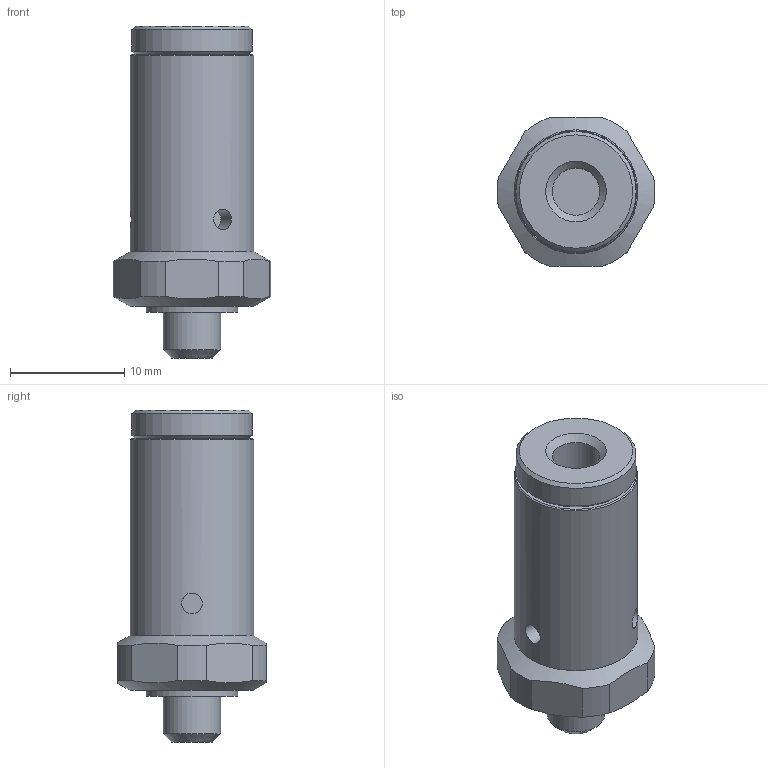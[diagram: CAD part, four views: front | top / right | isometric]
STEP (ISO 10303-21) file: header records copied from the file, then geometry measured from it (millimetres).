
FILE_DESCRIPTION(/* description */ ('VALVOLA S.RAPIDO IN M5 OUT M5'),/* implementation_level */ '2;1');
FILE_NAME(/* name */ 'I:\Area Tecnica\Disegni\VARIE-3D\Componenti\600\6_02_##_##_L\6_02_M5_M5_L.stp',/* time_stamp */ '2017-01-20T13:59:27+01:00',/* author */ ('maniean1'),/* organization */ ('Pneumax S.p.A.'),/* preprocessor_version */ 'ST-DEVELOPER v15.2',/* originating_system */ 'Autodesk Inventor 2014',/* authorisation */ '');
FILE_SCHEMA (('AUTOMOTIVE_DESIGN { 1 0 10303 214 3 1 1 }'));
Length unit declared in the file: millimetre
Products named in the file (1): 6_02_M5_M5_L
Bounding box: 13.77 x 13 x 29 mm (x, y, z)
Volume: 2433.4 mm3; surface area: 1285 mm2
Topology: 1 solids, 1 shells, 36 faces, 75 edges, 48 vertices
Faces by surface type: plane 15, cylinder 14, cone 7
Full cylindrical faces by diameter (mm): 1.8 x3, 4.134 x1, 5 x1, 8 x1, 10.5 x1, 10.8 x1
Entity records: 974 total; most frequent: CARTESIAN_POINT 264, DIRECTION 148, ORIENTED_EDGE 116, AXIS2_PLACEMENT_3D 68, EDGE_LOOP 58, EDGE_CURVE 58, VERTEX_POINT 46, ADVANCED_FACE 36
